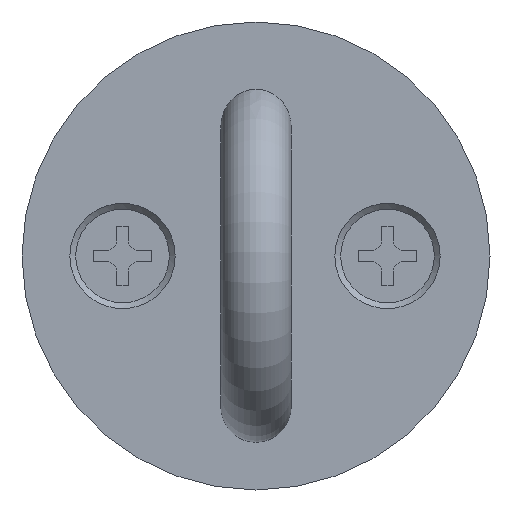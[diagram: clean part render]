
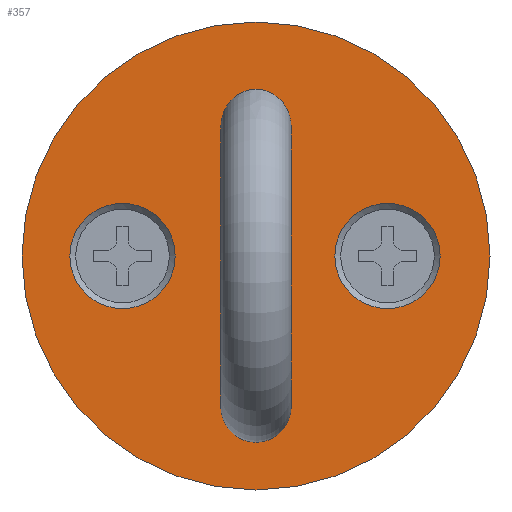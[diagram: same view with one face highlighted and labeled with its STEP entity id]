
A CAD part, left-side view. The second image highlights one B-rep face of the part: STEP entity #357.
In plain terms, the highlighted planar face has unit normal (-1, 0, 0) as drawn and (0, 0, 1) by its records, which use the part's own axes.
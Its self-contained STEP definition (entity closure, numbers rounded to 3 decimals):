
#357=ADVANCED_FACE('',(#687,#688,#689,#690),#691,.T.);
#687=FACE_BOUND('',#1039,.T.);
#688=FACE_BOUND('',#1040,.T.);
#689=FACE_BOUND('',#1041,.T.);
#690=FACE_OUTER_BOUND('',#1042,.T.);
#691=PLANE('',#1043);
#1039=EDGE_LOOP('',(#1730));
#1040=EDGE_LOOP('',(#1731));
#1041=EDGE_LOOP('',(#1732));
#1042=EDGE_LOOP('',(#1733));
#1043=AXIS2_PLACEMENT_3D('',#1734,#1735,#1736);
#1730=ORIENTED_EDGE('',*,*,#2386,.T.);
#1731=ORIENTED_EDGE('',*,*,#2421,.F.);
#1732=ORIENTED_EDGE('',*,*,#2259,.F.);
#1733=ORIENTED_EDGE('',*,*,#2188,.T.);
#1734=CARTESIAN_POINT('',(20.0,20.0,7.548));
#1735=DIRECTION('',(0.0,0.0,1.0));
#1736=DIRECTION('',(-1.0,0.0,0.0));
#2188=EDGE_CURVE('',#2585,#2585,#2586,.T.);
#2259=EDGE_CURVE('',#2708,#2708,#2709,.T.);
#2386=EDGE_CURVE('',#2902,#2902,#2903,.T.);
#2421=EDGE_CURVE('',#2948,#2948,#2949,.T.);
#2585=VERTEX_POINT('',#3152);
#2586=CIRCLE('',#3153,20.0);
#2708=VERTEX_POINT('',#3318);
#2709=CIRCLE('',#3319,4.5);
#2902=VERTEX_POINT('',#3592);
#2903=CIRCLE('',#3593,3.0);
#2948=VERTEX_POINT('',#3654);
#2949=CIRCLE('',#3655,4.5);
#3152=CARTESIAN_POINT('',(0.0,20.0,7.548));
#3153=AXIS2_PLACEMENT_3D('',#3928,#3929,#3930);
#3318=CARTESIAN_POINT('',(20.0,4.09,7.548));
#3319=AXIS2_PLACEMENT_3D('',#4016,#4017,#4018);
#3592=CARTESIAN_POINT('',(35.914,20.0,7.548));
#3593=AXIS2_PLACEMENT_3D('',#4179,#4180,#4181);
#3654=CARTESIAN_POINT('',(20.0,26.739,7.548));
#3655=AXIS2_PLACEMENT_3D('',#4220,#4221,#4222);
#3928=CARTESIAN_POINT('',(20.0,20.0,7.548));
#3929=DIRECTION('',(0.0,0.0,1.0));
#3930=DIRECTION('',(-1.0,0.0,0.0));
#4016=CARTESIAN_POINT('',(20.0,8.59,7.548));
#4017=DIRECTION('',(0.0,0.,1.0));
#4018=DIRECTION('',(0.0,-1.0,0.));
#4179=CARTESIAN_POINT('',(32.914,20.0,7.548));
#4180=DIRECTION('',(0.0,0.0,-1.0));
#4181=DIRECTION('',(1.0,0.0,0.0));
#4220=CARTESIAN_POINT('',(20.0,31.239,7.548));
#4221=DIRECTION('',(0.0,0.,1.0));
#4222=DIRECTION('',(0.0,-1.0,0.));
